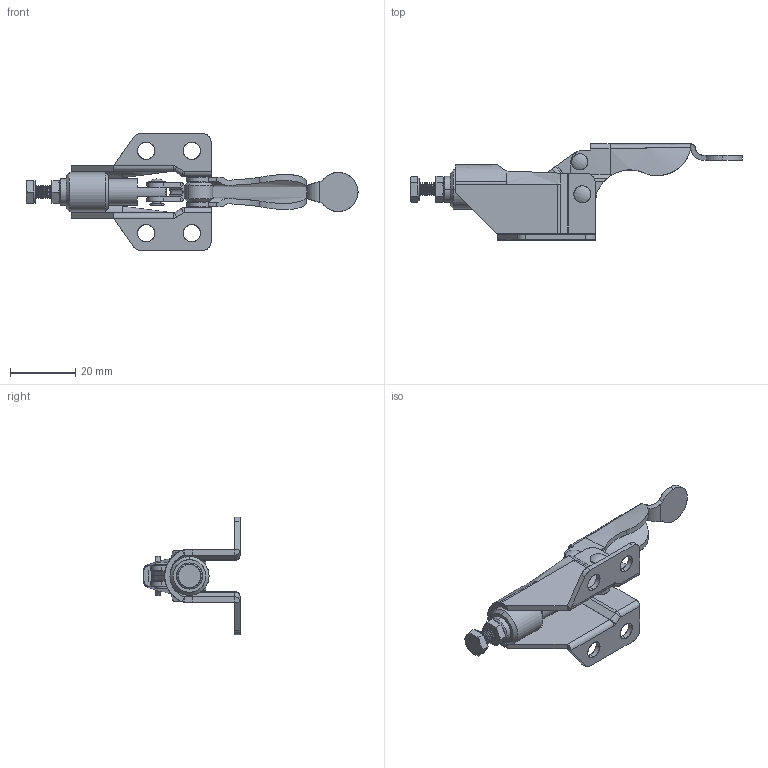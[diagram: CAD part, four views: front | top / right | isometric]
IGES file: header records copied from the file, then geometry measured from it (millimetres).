
Start section: SolidWorks IGES file using analytic representation for surfaces
Global section: file name: \\KOUGU-SV1\Public\Solidworks\工具事業部\坂入用\Toggle clamp\ISK-060\ISK-060_AssyT1.IGS; native system: SolidWorks 2020; preprocessor: SolidWorks 2020; author: design_room 03; date: 211110.132238; units: millimetre
Bounding box: 101.88 x 29.48 x 36 mm (x, y, z)
Surface area: 11206.5 mm2 (no closed solid volume)
Topology: 0 solids, 0 shells, 473 faces, 5161 edges, 5157 vertices
Faces by surface type: revolution 297, bspline 176
